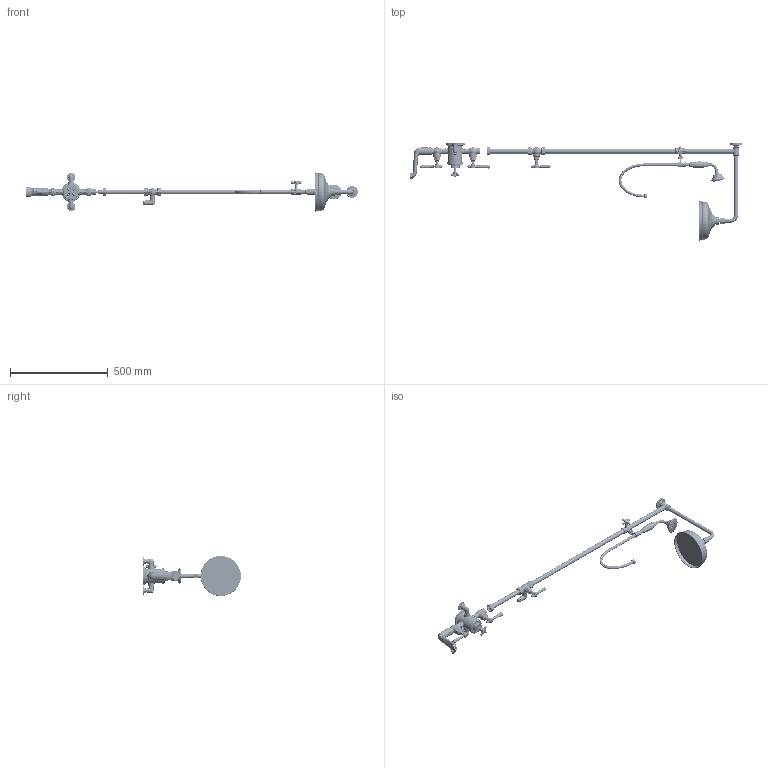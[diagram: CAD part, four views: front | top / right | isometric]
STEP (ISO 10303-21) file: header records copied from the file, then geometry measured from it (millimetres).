
FILE_DESCRIPTION(('FreeCAD Model'),'2;1');
FILE_NAME('Open CASCADE Shape Model','2025-05-30T12:07:31',('Author'),( ''),'Open CASCADE STEP processor 7.8','FreeCAD','Unknown');
FILE_SCHEMA(('AUTOMOTIVE_DESIGN { 1 0 10303 214 1 1 1 1 }'));
Length unit declared in the file: millimetre
Products named in the file (105): 1153162_ASM; 1153062_ASM; 1153040-012_AF0; 1153040-172; 1128040-432; 1153040-303; 1153062-572_AF0; 1128040-162_AF0; DS-M4X4-J_AF0; 1153040-073_AF0; DS-M4X4-P_AF0; JQ-50_47X2_62_AF0; 1153017-162_AF0; 1153003-112_AF0; 1153003-552_AF0; 1153003-572_AF0; JQ-8X1_8_AF4; 1153040-112_AF0; 1153040-113_AF0; 1153003-552_AF1; 1153040-553_AF0; 1153040-203_AF0; 1153040-204_AF0; 1153017-103_AF0; 1153003-192_AF0; 1153040-072_AF0; 1153062-572_AF1; 1153062-162_AF0; 1153017-162_AF1; 1153003-112_AF1; JQ-8X2_AF0; 1153003-552_AF2; 1153040-204_AF1; 1153003-572_AF1; 1153017-104_AF0; 1153003-192_AF1; JQ-6X2_AF11; 1153062-042_AF0; 1153016-022_AF0; DS-M6X5-J_AF0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
Assembly tree (123 placements, depth 5):
  1153162_ASM
    1153062_ASM
      1153040-012_AF0
      1153040-172  x2
      1128040-432  x2
      1153040-303  x2
      1153062-572_AF0
      1128040-162_AF0
      DS-M4X4-J_AF0
      1153040-073_AF0
      DS-M4X4-P_AF0
      JQ-50_47X2_62_AF0
      1153017-162_AF0
      1153003-112_AF0
      1153003-552_AF0
      1153003-572_AF0
      JQ-8X1_8_AF4
      1153040-112_AF0
      1153040-113_AF0
      1153003-552_AF1
      1153040-553_AF0
      1153040-203_AF0
      1153040-204_AF0
      1153017-103_AF0
      1153003-192_AF0
      1153040-072_AF0
      1153062-572_AF1
      1153062-162_AF0
      1153017-162_AF1
      1153003-112_AF1
      JQ-8X2_AF0
      1153003-552_AF2
      1153040-204_AF1
      1153003-572_AF1
      1153017-104_AF0
      1153003-192_AF1
      JQ-6X2_AF11
      1153062-042_AF0
      1153016-022_AF0
      DS-M6X5-J_AF0
      JQ-6X2_AF12
      DS-M6X8-J  x3
      2004342-312  x3
      1022124-404
        1022124-402
        1022124-403
    6025054_ASM
      1153040-442  x3
      1153040-334
      1153040-432  x3
      PQ-28X21X1_8  x3
      1153040-252
      1153040-573
      1153040-331_ASM
        1153040-332_AF0
        1153040-574_AF0
      1153040-531_ASM
        8003010-532
        1153040-042
        8002013-575
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Bounding box: 1695.47 x 499.21 x 205.42 mm (x, y, z)
Volume: 2116417.6 mm3; surface area: 885618.8 mm2
Topology: 111 solids, 112 shells, 11021 faces, 28552 edges, 17286 vertices
Faces by surface type: plane 5929, cylinder 3214, cone 757, bspline 607, torus 441, sphere 45, revolution 28
Entity records: 431430 total; most frequent: CARTESIAN_POINT 171931, ORIENTED_EDGE 54974, DIRECTION 49153, EDGE_CURVE 27487, LINE 16953, VECTOR 16953, VERTEX_POINT 16689, AXIS2_PLACEMENT_3D 16086
